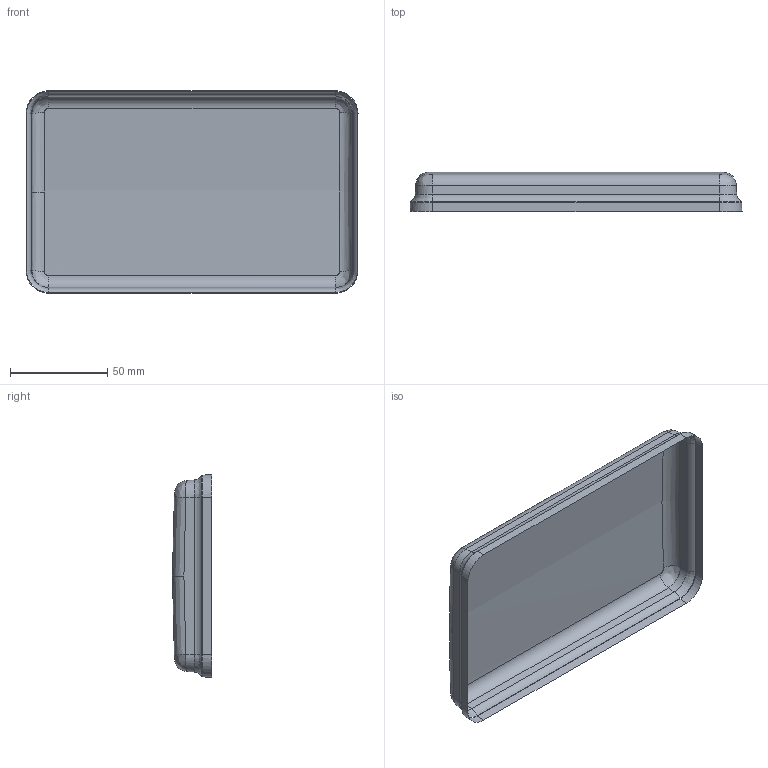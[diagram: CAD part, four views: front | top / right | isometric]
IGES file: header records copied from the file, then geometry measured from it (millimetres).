
Start section: SolidWorks IGES file using analytic representation for surfaces
Global section: file name: R:\USERS\btennant\case_iges\1040\1040-TOP-002.IGS; native system: SolidWorks 2005 by SolidWorks Corporation; preprocessor: SolidWorks 2005 by SolidWorks Corporation; author: btennant; date: 050322.114712; units: inch
Bounding box: 171.05 x 20.14 x 104.38 mm (x, y, z)
Surface area: 25095.3 mm2 (no closed solid volume)
Topology: 0 solids, 0 shells, 34 faces, 183 edges, 183 vertices
Faces by surface type: bspline 19, revolution 15
